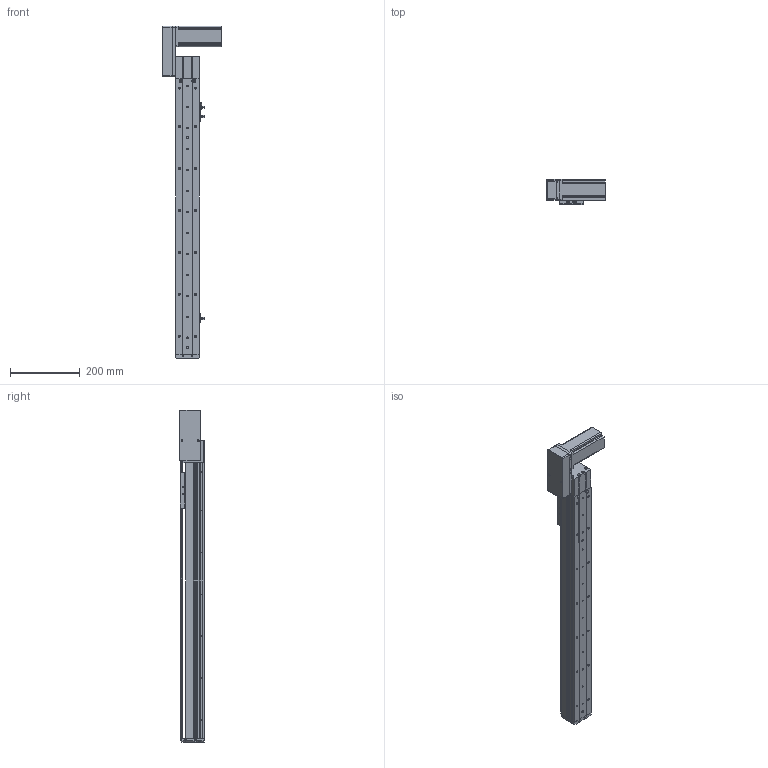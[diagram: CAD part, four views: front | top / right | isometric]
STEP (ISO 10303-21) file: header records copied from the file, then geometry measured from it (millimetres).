
FILE_DESCRIPTION (( 'STEP AP214' ), '1' );
FILE_NAME ('KSD68BS-S600-MRB-CM.STEP', '2019-08-22T05:53:46', ( '微软用户' ), ( '微软中国' ), 'SwSTEP 2.0', 'SolidWorks 2014', '' );
FILE_SCHEMA (( 'AUTOMOTIVE_DESIGN' ));
Length unit declared in the file: millimetre
Products named in the file (11): U倰嫖萇EEㄜSX672; 台达ECMA－C20604AS伺服电机（400W); KSD68BS 600俴最菁啣圉猾敕; KSD68BS-S600-MRB-CM; 悵誘欶奻狟殏; 68宽马达安装板连板上折同步带; 68宽单导轨半封闭同步带主动轮座右; 68单导轨同步带半封闭端板; KSD68BS 600俴最裔啣圉猾敕; 覜茼え68遵圉猾敕; KSD68BS半封闭同步带传动导轨座
Assembly tree (12 placements, depth 2):
  KSD68BS-S600-MRB-CM
    KSD68BS 600俴最菁啣圉猾敕
    台达ECMA－C20604AS伺服电机（400W)
    U倰嫖萇EEㄜSX672  x3
    KSD68BS半封闭同步带传动导轨座
    覜茼え68遵圉猾敕
    KSD68BS 600俴最裔啣圉猾敕
    68单导轨同步带半封闭端板
    68宽单导轨半封闭同步带主动轮座右
    68宽马达安装板连板上折同步带
    悵誘欶奻狟殏
Bounding box: 167.2 x 70.5 x 949.5 mm (x, y, z)
Volume: 1866050.7 mm3; surface area: 621205.9 mm2
Topology: 13 solids, 13 shells, 1304 faces, 3714 edges, 2412 vertices
Faces by surface type: cylinder 636, plane 585, cone 83
Entity records: 46729 total; most frequent: CARTESIAN_POINT 8670, ORIENTED_EDGE 6180, DIRECTION 6170, EDGE_CURVE 3090, AXIS2_PLACEMENT_3D 2208, VERTEX_POINT 2036, VECTOR 1754, LINE 1754
